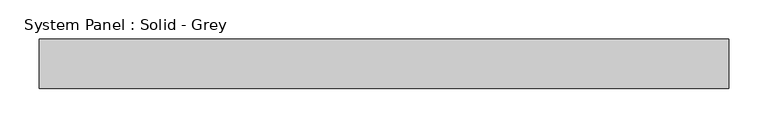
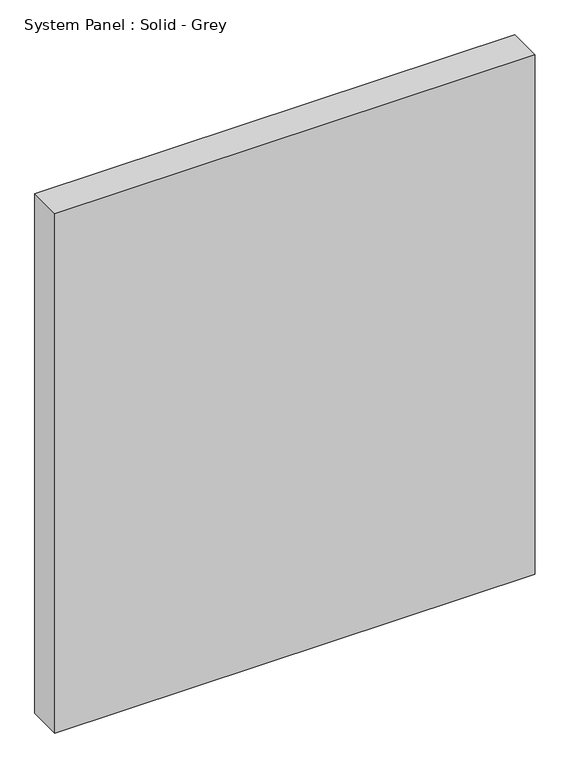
"""IFC4 building model written with IfcOpenShell, lengths in millimetres: plate geometry, System Panel : Solid - Grey."""

from ifc_helpers import new_model, si_unit, origin, origin_with_axes, place, context, project, spatial, polyline, outline, extrude, source, transform, mapped, element, save


def system_panel_solid_grey_943a4061(model_context):
    return source(origin(), model_context, "Body", "SweptSolid", [
        extrude(outline(polyline([(440.1829802, -19.05), (-440.1829802, -19.05), (-440.1829802, 44.45), (440.1829802, 44.45), (440.1829802, -19.05)])), origin_with_axes(), (0.0, 0.0, 1.0), 1006.5080051),
    ])


if __name__ == "__main__":
    model = new_model("IFC4")
    model_context = context("Model", 3, world=origin())
    ifc_project = project(units=[si_unit("LENGTHUNIT", "METRE", prefix="MILLI")], contexts=[model_context])
    site = spatial("IfcSite", under=ifc_project)
    building = spatial("IfcBuilding", under=site)
    placement = place(None, origin())
    system_panel_solid_grey_shape = system_panel_solid_grey_943a4061(model_context)
    element("IfcPlate", 1, ObjectType="System Panel : Solid - Grey", at=placement, inside=building, context=model_context, shape_type="MappedRepresentation", body=[
        mapped(system_panel_solid_grey_shape, transform((0.0, 0.0, 0.0), x_axis=(1.0, 0.0, 0.0), y_axis=(0.0, 1.0, 0.0), z_axis=(0.0, 0.0, 1.0))),
    ])
    save(model, "model.ifc")
